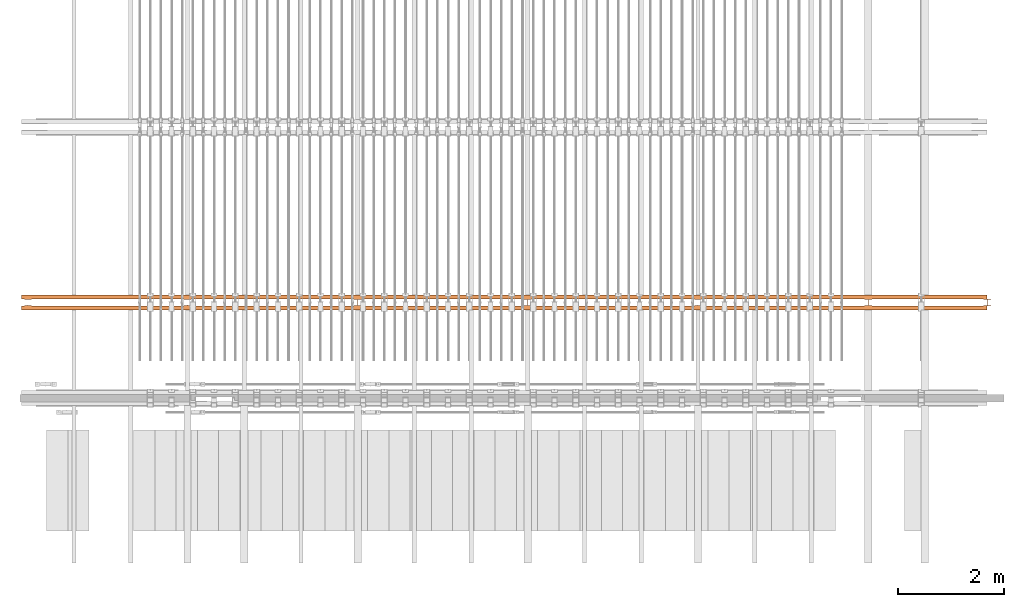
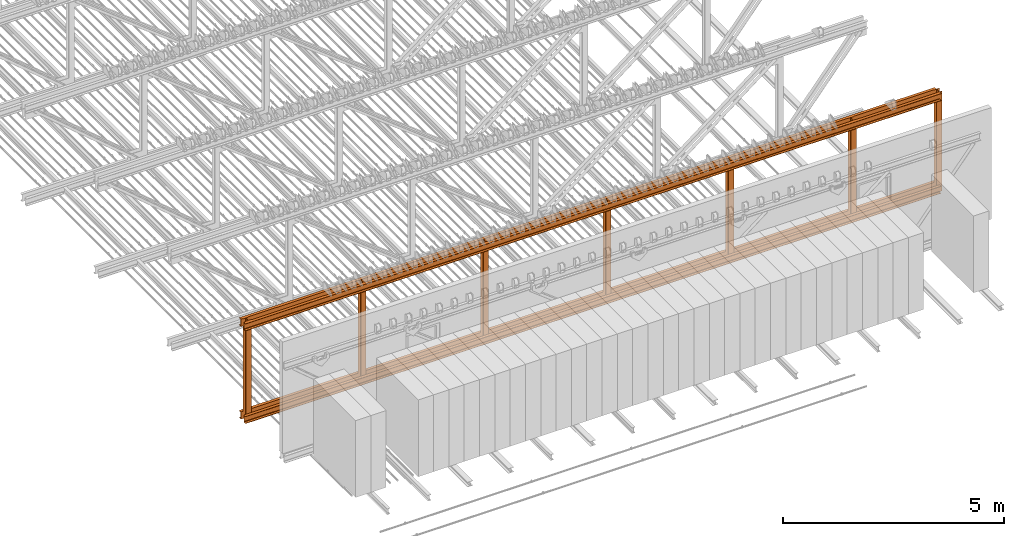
# One storey, part 6 of 8: 1 proxy.
"""IFC2X3 building model written with IfcOpenShell, lengths in millimetres."""

from ifc_helpers import new_model, entity, si_unit, converted_unit, direction, frame, frame_2d, origin, place, context, subcontext, project, spatial, polyline, circle_curve, parameter, trimmed, segment, composite_curve, outline, extrude, source, transform, mapped, material, type_object, type_shapes, element, save


model = new_model("IFC2X3")

# Units and contexts
model_context = context("Model", 3, precision=0.01, world=origin(), true_north=direction((6.123233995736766e-17, 1.0)))
body_context = subcontext(model_context, "Body", "Model", "MODEL_VIEW")
ifc_project = project(units=[si_unit("LENGTHUNIT", "METRE", prefix="MILLI"), si_unit("AREAUNIT", "SQUARE_METRE"), converted_unit("PLANEANGLEUNIT", "DEGREE", entity("IfcPlaneAngleMeasure", 0.017453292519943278), si_unit("PLANEANGLEUNIT", "RADIAN"), dimensions=[0, 0, 0, 0, 0, 0, 0])], contexts=[model_context])

# Site, building, storey
site_placement = place(None, origin())
site = spatial("IfcSite", under=ifc_project, at=site_placement, Name="Default", CompositionType="ELEMENT")
building_placement = place(site_placement, origin())
building = spatial("IfcBuilding", under=site, at=building_placement, CompositionType="ELEMENT")
storey_placement = place(building_placement, frame((0.0, 0.0, 30550.0)))
storey = spatial("IfcBuildingStorey", under=building, at=storey_placement, Name="Rollenzolder", CompositionType="ELEMENT", Elevation=30550.000000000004)

# Proxy
ifc_material = material(Name="Staal PBTA")
building_element_proxy_type = type_object("IfcBuildingElementProxyType", Name="ophanging:ophanging", PredefinedType="NOTDEFINED", material=ifc_material)
shared_shape = source(origin(), body_context, "Body", "SweptSolid", [
    extrude(outline(composite_curve([segment(polyline([(-70.0, -58.0), (-70.0, -66.50000000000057)]), True, "CONTINUOUS"), segment(polyline([(-70.0, -66.50000000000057), (70.0, -66.50000000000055)]), True, "CONTINUOUS"), segment(polyline([(70.0, -66.50000000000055), (70.0, -58.0)]), True, "CONTINUOUS"), segment(polyline([(70.0, -58.0), (14.749999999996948, -58.0)]), True, "CONTINUOUS"), segment(trimmed(circle_curve(frame_2d((14.749999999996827, -46.0), x_axis=(0.0, -1.0)), 12.0), [parameter(269.9999999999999)], [parameter(1.0177774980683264e-12)], True, "PARAMETER"), False, "CONTINUOUS"), segment(polyline([(2.749999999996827, -46.0), (2.749999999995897, 46.0)]), True, "CONTINUOUS"), segment(trimmed(circle_curve(frame_2d((14.749999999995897, 46.0), x_axis=(-1.0, 0.0)), 12.0), [parameter(269.9999999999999)], [parameter(359.9999999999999)], True, "PARAMETER"), False, "CONTINUOUS"), segment(polyline([(14.749999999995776, 58.0), (70.0, 58.0)]), True, "CONTINUOUS"), segment(polyline([(70.0, 58.0), (70.0, 66.4999999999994)]), True, "CONTINUOUS"), segment(polyline([(70.0, 66.4999999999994), (-70.0, 66.49999999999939)]), True, "CONTINUOUS"), segment(polyline([(-70.0, 66.49999999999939), (-70.0, 58.0)]), True, "CONTINUOUS"), segment(polyline([(-70.0, 58.0), (-14.750000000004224, 58.0)]), True, "CONTINUOUS"), segment(trimmed(circle_curve(frame_2d((-14.750000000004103, 46.0), x_axis=(0.0, 1.0)), 12.0), [parameter(269.9999999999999)], [parameter(359.99999999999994)], True, "PARAMETER"), False, "CONTINUOUS"), segment(polyline([(-2.750000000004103, 46.0), (-2.750000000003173, -46.0)]), True, "CONTINUOUS"), segment(trimmed(circle_curve(frame_2d((-14.750000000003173, -46.0), x_axis=(1.0, 0.0)), 12.0), [parameter(269.9999999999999)], [parameter(2.0355549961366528e-13)], True, "PARAMETER"), False, "CONTINUOUS"), segment(polyline([(-14.75000000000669, -58.0), (-70.0, -58.0)]), True, "CONTINUOUS")], self_intersect=False)), frame((18290.0, 0.0, -200.0), z_axis=(0.0, 0.0, -1.0), x_axis=(-1.0, 0.0, 0.0)), (0.0, 0.0, -1.0), 2760.0),
    extrude(outline(composite_curve([segment(polyline([(-70.0, -58.0), (-70.0, -66.50000000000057)]), True, "CONTINUOUS"), segment(polyline([(-70.0, -66.50000000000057), (70.0, -66.50000000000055)]), True, "CONTINUOUS"), segment(polyline([(70.0, -66.50000000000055), (70.0, -58.0)]), True, "CONTINUOUS"), segment(polyline([(70.0, -58.0), (14.749999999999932, -58.0)]), True, "CONTINUOUS"), segment(trimmed(circle_curve(frame_2d((14.749999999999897, -46.0), x_axis=(1.0, 0.0)), 12.0), [parameter(180.00000000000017)], [parameter(270.0000000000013)], True, "PARAMETER"), False, "CONTINUOUS"), segment(polyline([(2.7499999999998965, -46.0), (2.749999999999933, 46.0)]), True, "CONTINUOUS"), segment(trimmed(circle_curve(frame_2d((14.749999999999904, 46.0), x_axis=(1.0, 0.0)), 12.0), [parameter(89.99999999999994)], [parameter(179.9999999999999)], True, "PARAMETER"), False, "CONTINUOUS"), segment(polyline([(14.749999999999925, 58.0), (70.0, 58.0)]), True, "CONTINUOUS"), segment(polyline([(70.0, 58.0), (70.0, 66.4999999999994)]), True, "CONTINUOUS"), segment(polyline([(70.0, 66.4999999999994), (-70.0, 66.49999999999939)]), True, "CONTINUOUS"), segment(polyline([(-70.0, 66.49999999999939), (-70.0, 58.0)]), True, "CONTINUOUS"), segment(polyline([(-70.0, 58.0), (-14.750000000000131, 58.0)]), True, "CONTINUOUS"), segment(trimmed(circle_curve(frame_2d((-14.750000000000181, 46.0), x_axis=(1.0, 0.0)), 12.0), [parameter(359.99999999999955)], [parameter(89.99999999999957)], True, "PARAMETER"), False, "CONTINUOUS"), segment(polyline([(-2.7500000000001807, 46.0), (-2.7500000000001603, -46.0)]), True, "CONTINUOUS"), segment(trimmed(circle_curve(frame_2d((-14.750000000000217, -46.0), x_axis=(1.0, 0.0)), 12.0), [parameter(269.99999999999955)], [parameter(359.99999999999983)], True, "PARAMETER"), False, "CONTINUOUS"), segment(polyline([(-14.750000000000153, -58.0), (-70.0, -58.0)]), True, "CONTINUOUS")], self_intersect=False)), frame((250.0, 0.0, -200.0), z_axis=(0.0, 0.0, -1.0), x_axis=(-1.0, 0.0, 0.0)), (0.0, 0.0, -1.0), 2760.0000000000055),
    extrude(outline(composite_curve([segment(polyline([(-100.0, -41.17690021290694), (100.0, -41.17690021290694)]), True, "CONTINUOUS"), segment(polyline([(100.0, -41.17690021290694), (100.0, 33.82309978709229)]), True, "CONTINUOUS"), segment(polyline([(100.0, 33.82309978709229), (97.03916937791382, 33.82309978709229)]), True, "CONTINUOUS"), segment(trimmed(circle_curve(frame_2d((97.03916937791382, 27.82309978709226), x_axis=(0.0, 1.0)), 6.0), [parameter(3.053332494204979e-13)], [parameter(85.42607874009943)], True, "PARAMETER"), True, "CONTINUOUS"), segment(polyline([(91.05827770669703, 28.30157112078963), (87.02663439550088, -22.093970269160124)]), True, "CONTINUOUS"), segment(trimmed(circle_curve(frame_2d((75.5632586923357, -21.176900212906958), x_axis=(0.0, 1.0)), 11.5), [parameter(180.0000000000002)], [parameter(265.4260787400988)], True, "PARAMETER"), False, "CONTINUOUS"), segment(polyline([(75.5632586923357, -32.67690021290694), (-75.56325869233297, -32.67690021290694)]), True, "CONTINUOUS"), segment(trimmed(circle_curve(frame_2d((-75.56325869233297, -21.176900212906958), x_axis=(0.0, 1.0)), 11.5), [parameter(94.57392125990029)], [parameter(179.99999999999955)], True, "PARAMETER"), False, "CONTINUOUS"), segment(polyline([(-87.0266343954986, -22.093970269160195), (-91.0582777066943, 28.30157112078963)]), True, "CONTINUOUS"), segment(trimmed(circle_curve(frame_2d((-97.03916937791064, 27.82309978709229), x_axis=(0.0, 1.0)), 6.0), [parameter(274.5739212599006)], [parameter(0.0)], True, "PARAMETER"), True, "CONTINUOUS"), segment(polyline([(-97.03916937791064, 33.82309978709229), (-100.0, 33.82309978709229)]), True, "CONTINUOUS"), segment(polyline([(-100.0, 33.82309978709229), (-100.0, -41.17690021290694)]), True, "CONTINUOUS")], self_intersect=False)), frame((125.0, 107.67690021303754, 2460.0), z_axis=(1.0, 0.0, 0.0), x_axis=(0.0, 0.0, -1.0)), (0.0, 0.0, 1.0), 18165.0),
    extrude(outline(composite_curve([segment(polyline([(-100.0, -41.17690021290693), (100.0, -41.17690021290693)]), True, "CONTINUOUS"), segment(polyline([(100.0, -41.17690021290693), (100.0, 33.82309978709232)]), True, "CONTINUOUS"), segment(polyline([(100.0, 33.82309978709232), (97.03916937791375, 33.82309978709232)]), True, "CONTINUOUS"), segment(trimmed(circle_curve(frame_2d((97.03916937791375, 27.82309978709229), x_axis=(0.0, 1.0)), 6.0), [parameter(3.053332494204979e-13)], [parameter(85.42607874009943)], True, "PARAMETER"), True, "CONTINUOUS"), segment(polyline([(91.05827770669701, 28.30157112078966), (87.02663439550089, -22.09397026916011)]), True, "CONTINUOUS"), segment(trimmed(circle_curve(frame_2d((75.56325869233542, -21.17690021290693), x_axis=(0.0, 1.0)), 11.5), [parameter(180.0000000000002)], [parameter(265.4260787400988)], True, "PARAMETER"), False, "CONTINUOUS"), segment(polyline([(75.56325869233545, -32.67690021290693), (-75.5632586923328, -32.67690021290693)]), True, "CONTINUOUS"), segment(trimmed(circle_curve(frame_2d((-75.56325869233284, -21.17690021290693), x_axis=(0.0, 1.0)), 11.5), [parameter(94.57392125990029)], [parameter(179.99999999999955)], True, "PARAMETER"), False, "CONTINUOUS"), segment(polyline([(-87.02663439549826, -22.09397026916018), (-91.0582777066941, 28.30157112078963)]), True, "CONTINUOUS"), segment(trimmed(circle_curve(frame_2d((-97.03916937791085, 27.823099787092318), x_axis=(0.0, 1.0)), 6.0), [parameter(274.5739212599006)], [parameter(0.0)], True, "PARAMETER"), True, "CONTINUOUS"), segment(polyline([(-97.03916937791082, 33.82309978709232), (-100.0, 33.82309978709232)]), True, "CONTINUOUS"), segment(polyline([(-100.0, 33.82309978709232), (-100.0, -41.17690021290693)]), True, "CONTINUOUS")], self_intersect=False)), frame((125.0, 107.67690021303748, -100.0), z_axis=(1.0, 0.0, 0.0), x_axis=(0.0, 0.0, -1.0)), (0.0, 0.0, 1.0), 18165.0),
    extrude(outline(composite_curve([segment(polyline([(-41.17690021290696, -100.0), (33.82309978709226, -100.0)]), True, "CONTINUOUS"), segment(polyline([(33.82309978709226, -100.0), (33.82309978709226, -97.0391693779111)]), True, "CONTINUOUS"), segment(trimmed(circle_curve(frame_2d((27.82309978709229, -97.0391693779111), x_axis=(0.0, 1.0)), 6.0), [parameter(269.9999999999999)], [parameter(355.42607874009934)], True, "PARAMETER"), True, "CONTINUOUS"), segment(polyline([(28.301571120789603, -91.05827770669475), (-22.09397026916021, -87.02663439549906)]), True, "CONTINUOUS"), segment(trimmed(circle_curve(frame_2d((-21.176900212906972, -75.56325869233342), x_axis=(-0.9968152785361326, 0.07974522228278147)), 11.5), [parameter(4.573921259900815)], [parameter(90.00000000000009)], True, "PARAMETER"), False, "CONTINUOUS"), segment(polyline([(-32.67690021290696, -75.56325869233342), (-32.67690021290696, 75.56325869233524)]), True, "CONTINUOUS"), segment(trimmed(circle_curve(frame_2d((-21.176900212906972, 75.56325869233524), x_axis=(0.0, 1.0)), 11.5), [parameter(4.573921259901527)], [parameter(90.00000000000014)], True, "PARAMETER"), False, "CONTINUOUS"), segment(polyline([(-22.09397026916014, 87.02663439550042), (28.30157112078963, 91.05827770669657)]), True, "CONTINUOUS"), segment(trimmed(circle_curve(frame_2d((27.82309978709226, 97.03916937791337), x_axis=(0.9968152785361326, 0.07974522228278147)), 6.0), [parameter(269.9999999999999)], [parameter(355.42607874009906)], True, "PARAMETER"), True, "CONTINUOUS"), segment(polyline([(33.82309978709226, 97.03916937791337), (33.82309978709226, 100.0)]), True, "CONTINUOUS"), segment(polyline([(33.82309978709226, 100.0), (-41.17690021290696, 100.0)]), True, "CONTINUOUS"), segment(polyline([(-41.17690021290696, 100.0), (-41.17690021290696, -100.0)]), True, "CONTINUOUS")], self_intersect=False)), frame((125.0, -107.6769002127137, 2460.0), z_axis=(1.0, 0.0, 0.0), x_axis=(0.0, -1.0, 0.0)), (0.0, 0.0, 1.0), 18165.000000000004),
    extrude(outline(composite_curve([segment(polyline([(-41.17690021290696, -100.0), (33.82309978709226, -100.0)]), True, "CONTINUOUS"), segment(polyline([(33.82309978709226, -100.0), (33.82309978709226, -97.03916937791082)]), True, "CONTINUOUS"), segment(trimmed(circle_curve(frame_2d((27.82309978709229, -97.03916937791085), x_axis=(0.0, 1.0)), 6.0), [parameter(269.9999999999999)], [parameter(355.42607874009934)], True, "PARAMETER"), True, "CONTINUOUS"), segment(polyline([(28.301571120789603, -91.0582777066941), (-22.09397026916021, -87.02663439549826)]), True, "CONTINUOUS"), segment(trimmed(circle_curve(frame_2d((-21.176900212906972, -75.56325869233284), x_axis=(-0.9968152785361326, 0.07974522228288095)), 11.5), [parameter(4.573921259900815)], [parameter(90.00000000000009)], True, "PARAMETER"), False, "CONTINUOUS"), segment(polyline([(-32.67690021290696, -75.5632586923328), (-32.67690021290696, 75.56325869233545)]), True, "CONTINUOUS"), segment(trimmed(circle_curve(frame_2d((-21.176900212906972, 75.56325869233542), x_axis=(0.0, 1.0)), 11.5), [parameter(4.573921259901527)], [parameter(90.00000000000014)], True, "PARAMETER"), False, "CONTINUOUS"), segment(polyline([(-22.09397026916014, 87.02663439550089), (28.30157112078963, 91.05827770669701)]), True, "CONTINUOUS"), segment(trimmed(circle_curve(frame_2d((27.82309978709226, 97.03916937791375), x_axis=(0.9968152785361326, 0.07974522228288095)), 6.0), [parameter(269.9999999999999)], [parameter(355.42607874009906)], True, "PARAMETER"), True, "CONTINUOUS"), segment(polyline([(33.82309978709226, 97.03916937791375), (33.82309978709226, 100.0)]), True, "CONTINUOUS"), segment(polyline([(33.82309978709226, 100.0), (-41.17690021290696, 100.0)]), True, "CONTINUOUS"), segment(polyline([(-41.17690021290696, 100.0), (-41.17690021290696, -100.0)]), True, "CONTINUOUS")], self_intersect=False)), frame((125.0, -107.6769002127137, -100.0), z_axis=(1.0, 0.0, 0.0), x_axis=(0.0, -1.0, 0.0)), (0.0, 0.0, 1.0), 18165.000000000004),
    extrude(outline(composite_curve([segment(polyline([(-70.0, -58.0), (-70.0, -66.50000000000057)]), True, "CONTINUOUS"), segment(polyline([(-70.0, -66.50000000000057), (70.0, -66.50000000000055)]), True, "CONTINUOUS"), segment(polyline([(70.0, -66.50000000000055), (70.0, -58.0)]), True, "CONTINUOUS"), segment(polyline([(70.0, -58.0), (14.750000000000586, -58.0)]), True, "CONTINUOUS"), segment(trimmed(circle_curve(frame_2d((14.750000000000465, -46.0), x_axis=(0.0, -1.0)), 12.0), [parameter(269.9999999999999)], [parameter(1.0177774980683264e-12)], True, "PARAMETER"), False, "CONTINUOUS"), segment(polyline([(2.749999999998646, -46.0), (2.749999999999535, 46.0)]), True, "CONTINUOUS"), segment(trimmed(circle_curve(frame_2d((14.749999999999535, 46.0), x_axis=(-1.0, 0.0)), 12.0), [parameter(269.9999999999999)], [parameter(359.9999999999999)], True, "PARAMETER"), False, "CONTINUOUS"), segment(polyline([(14.749999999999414, 58.0), (70.0, 58.0)]), True, "CONTINUOUS"), segment(polyline([(70.0, 58.0), (70.0, 66.4999999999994)]), True, "CONTINUOUS"), segment(polyline([(70.0, 66.4999999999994), (-70.0, 66.49999999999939)]), True, "CONTINUOUS"), segment(polyline([(-70.0, 66.49999999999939), (-70.0, 58.0)]), True, "CONTINUOUS"), segment(polyline([(-70.0, 58.0), (-14.750000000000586, 58.0)]), True, "CONTINUOUS"), segment(trimmed(circle_curve(frame_2d((-14.750000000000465, 46.0), x_axis=(0.0, 1.0)), 12.0), [parameter(269.9999999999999)], [parameter(359.99999999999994)], True, "PARAMETER"), False, "CONTINUOUS"), segment(polyline([(-2.750000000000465, 46.0), (-2.749999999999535, -46.0)]), True, "CONTINUOUS"), segment(trimmed(circle_curve(frame_2d((-14.749999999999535, -46.0), x_axis=(1.0, 0.0)), 12.0), [parameter(269.9999999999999)], [parameter(2.0355549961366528e-13)], True, "PARAMETER"), False, "CONTINUOUS"), segment(polyline([(-14.750000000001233, -58.0), (-70.0, -58.0)]), True, "CONTINUOUS")], self_intersect=False)), frame((16050.0, 0.0, -200.0), z_axis=(0.0, 0.0, -1.0), x_axis=(-1.0, 0.0, 0.0)), (0.0, 0.0, -1.0), 2760.0),
    extrude(outline(composite_curve([segment(polyline([(-70.0, -58.0), (-70.0, -66.50000000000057)]), True, "CONTINUOUS"), segment(polyline([(-70.0, -66.50000000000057), (70.0, -66.50000000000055)]), True, "CONTINUOUS"), segment(polyline([(70.0, -66.50000000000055), (70.0, -58.0)]), True, "CONTINUOUS"), segment(polyline([(70.0, -58.0), (14.750000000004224, -58.0)]), True, "CONTINUOUS"), segment(trimmed(circle_curve(frame_2d((14.750000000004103, -46.0), x_axis=(0.0, -1.0)), 12.0), [parameter(269.9999999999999)], [parameter(1.0177774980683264e-12)], True, "PARAMETER"), False, "CONTINUOUS"), segment(polyline([(2.750000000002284, -46.0), (2.750000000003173, 46.0)]), True, "CONTINUOUS"), segment(trimmed(circle_curve(frame_2d((14.750000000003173, 46.0), x_axis=(-1.0, 0.0)), 12.0), [parameter(269.9999999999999)], [parameter(359.9999999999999)], True, "PARAMETER"), False, "CONTINUOUS"), segment(polyline([(14.750000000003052, 58.0), (70.0, 58.0)]), True, "CONTINUOUS"), segment(polyline([(70.0, 58.0), (70.0, 66.4999999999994)]), True, "CONTINUOUS"), segment(polyline([(70.0, 66.4999999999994), (-70.0, 66.49999999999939)]), True, "CONTINUOUS"), segment(polyline([(-70.0, 66.49999999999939), (-70.0, 58.0)]), True, "CONTINUOUS"), segment(polyline([(-70.0, 58.0), (-14.749999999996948, 58.0)]), True, "CONTINUOUS"), segment(trimmed(circle_curve(frame_2d((-14.749999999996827, 46.0), x_axis=(0.0, 1.0)), 12.0), [parameter(269.9999999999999)], [parameter(359.99999999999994)], True, "PARAMETER"), False, "CONTINUOUS"), segment(polyline([(-2.749999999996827, 46.0), (-2.749999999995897, -46.0)]), True, "CONTINUOUS"), segment(trimmed(circle_curve(frame_2d((-14.749999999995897, -46.0), x_axis=(1.0, 0.0)), 12.0), [parameter(269.9999999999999)], [parameter(2.0355549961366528e-13)], True, "PARAMETER"), False, "CONTINUOUS"), segment(polyline([(-14.749999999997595, -58.0), (-70.0, -58.0)]), True, "CONTINUOUS")], self_intersect=False)), frame((12850.0, 0.0, -200.0), z_axis=(0.0, 0.0, -1.0), x_axis=(-1.0, 0.0, 0.0)), (0.0, 0.0, -1.0), 2760.0),
    extrude(outline(composite_curve([segment(polyline([(-70.0, -58.0), (-70.0, -66.50000000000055)]), True, "CONTINUOUS"), segment(polyline([(-70.0, -66.50000000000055), (70.0, -66.50000000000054)]), True, "CONTINUOUS"), segment(polyline([(70.0, -66.50000000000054), (70.0, -58.0)]), True, "CONTINUOUS"), segment(polyline([(70.0, -58.0), (14.749999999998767, -58.0)]), True, "CONTINUOUS"), segment(trimmed(circle_curve(frame_2d((14.750000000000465, -46.0), x_axis=(0.0, -1.0)), 12.0), [parameter(269.9999999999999)], [parameter(1.0177774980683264e-12)], True, "PARAMETER"), False, "CONTINUOUS"), segment(polyline([(2.749999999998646, -46.0), (2.749999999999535, 46.0)]), True, "CONTINUOUS"), segment(trimmed(circle_curve(frame_2d((14.749999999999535, 46.0), x_axis=(-1.0, 0.0)), 12.0), [parameter(269.9999999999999)], [parameter(359.9999999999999)], True, "PARAMETER"), False, "CONTINUOUS"), segment(polyline([(14.749999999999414, 58.0), (70.0, 58.0)]), True, "CONTINUOUS"), segment(polyline([(70.0, 58.0), (70.0, 66.4999999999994)]), True, "CONTINUOUS"), segment(polyline([(70.0, 66.4999999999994), (-70.0, 66.49999999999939)]), True, "CONTINUOUS"), segment(polyline([(-70.0, 66.49999999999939), (-70.0, 58.0)]), True, "CONTINUOUS"), segment(polyline([(-70.0, 58.0), (-14.750000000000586, 58.0)]), True, "CONTINUOUS"), segment(trimmed(circle_curve(frame_2d((-14.750000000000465, 46.0), x_axis=(0.0, 1.0)), 12.0), [parameter(269.9999999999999)], [parameter(359.99999999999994)], True, "PARAMETER"), False, "CONTINUOUS"), segment(polyline([(-2.750000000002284, 46.0), (-2.750000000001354, -46.0)]), True, "CONTINUOUS"), segment(trimmed(circle_curve(frame_2d((-14.749999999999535, -46.0), x_axis=(1.0, 0.0)), 12.0), [parameter(269.9999999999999)], [parameter(2.0355549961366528e-13)], True, "PARAMETER"), False, "CONTINUOUS"), segment(polyline([(-14.750000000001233, -58.0), (-70.0, -58.0)]), True, "CONTINUOUS")], self_intersect=False)), frame((9650.0, 0.0, -200.0), z_axis=(0.0, 0.0, -1.0), x_axis=(-1.0, 0.0, 0.0)), (0.0, 0.0, -1.0), 2759.9999999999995),
    extrude(outline(composite_curve([segment(polyline([(-70.0, -58.0), (-70.0, -66.50000000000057)]), True, "CONTINUOUS"), segment(polyline([(-70.0, -66.50000000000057), (70.0, -66.50000000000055)]), True, "CONTINUOUS"), segment(polyline([(70.0, -66.50000000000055), (70.0, -58.0)]), True, "CONTINUOUS"), segment(polyline([(70.0, -58.0), (14.750000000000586, -58.0)]), True, "CONTINUOUS"), segment(trimmed(circle_curve(frame_2d((14.750000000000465, -46.0), x_axis=(0.0, -1.0)), 12.0), [parameter(269.9999999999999)], [parameter(1.0177774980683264e-12)], True, "PARAMETER"), False, "CONTINUOUS"), segment(polyline([(2.7500000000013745, -46.0), (2.750000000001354, 46.0)]), True, "CONTINUOUS"), segment(trimmed(circle_curve(frame_2d((14.749999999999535, 46.0), x_axis=(-1.0, 0.0)), 12.0), [parameter(269.9999999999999)], [parameter(359.9999999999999)], True, "PARAMETER"), False, "CONTINUOUS"), segment(polyline([(14.750000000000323, 58.0), (70.0, 58.0)]), True, "CONTINUOUS"), segment(polyline([(70.0, 58.0), (70.0, 66.49999999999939)]), True, "CONTINUOUS"), segment(polyline([(70.0, 66.49999999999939), (-70.0, 66.49999999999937)]), True, "CONTINUOUS"), segment(polyline([(-70.0, 66.49999999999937), (-70.0, 58.0)]), True, "CONTINUOUS"), segment(polyline([(-70.0, 58.0), (-14.749999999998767, 58.0)]), True, "CONTINUOUS"), segment(trimmed(circle_curve(frame_2d((-14.750000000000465, 46.0), x_axis=(0.0, 1.0)), 12.0), [parameter(269.9999999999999)], [parameter(359.99999999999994)], True, "PARAMETER"), False, "CONTINUOUS"), segment(polyline([(-2.7499999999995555, 46.0), (-2.749999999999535, -46.0)]), True, "CONTINUOUS"), segment(trimmed(circle_curve(frame_2d((-14.749999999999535, -46.0), x_axis=(1.0, 0.0)), 12.0), [parameter(269.9999999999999)], [parameter(2.0355549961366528e-13)], True, "PARAMETER"), False, "CONTINUOUS"), segment(polyline([(-14.749999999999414, -58.0), (-70.0, -58.0)]), True, "CONTINUOUS")], self_intersect=False)), frame((6450.0, 0.0, -200.0), z_axis=(0.0, 0.0, -1.0), x_axis=(-1.0, 0.0, 0.0)), (0.0, 0.0, -1.0), 2760.0),
    extrude(outline(composite_curve([segment(polyline([(-70.0, -58.0), (-70.0, -66.50000000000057)]), True, "CONTINUOUS"), segment(polyline([(-70.0, -66.50000000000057), (70.0, -66.50000000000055)]), True, "CONTINUOUS"), segment(polyline([(70.0, -66.50000000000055), (70.0, -58.0)]), True, "CONTINUOUS"), segment(polyline([(70.0, -58.0), (14.749999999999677, -58.0)]), True, "CONTINUOUS"), segment(trimmed(circle_curve(frame_2d((14.750000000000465, -46.0), x_axis=(1.0, 0.0)), 12.0), [parameter(180.00000000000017)], [parameter(270.0000000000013)], True, "PARAMETER"), False, "CONTINUOUS"), segment(polyline([(2.75000000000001, -46.0), (2.74999999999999, 46.0)]), True, "CONTINUOUS"), segment(trimmed(circle_curve(frame_2d((14.750000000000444, 46.0), x_axis=(1.0, 0.0)), 12.0), [parameter(89.99999999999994)], [parameter(179.9999999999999)], True, "PARAMETER"), False, "CONTINUOUS"), segment(polyline([(14.749999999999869, 58.0), (70.0, 58.0)]), True, "CONTINUOUS"), segment(polyline([(70.0, 58.0), (70.0, 66.4999999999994)]), True, "CONTINUOUS"), segment(polyline([(70.0, 66.4999999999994), (-70.0, 66.49999999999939)]), True, "CONTINUOUS"), segment(polyline([(-70.0, 66.49999999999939), (-70.0, 58.0)]), True, "CONTINUOUS"), segment(polyline([(-70.0, 58.0), (-14.750000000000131, 58.0)]), True, "CONTINUOUS"), segment(trimmed(circle_curve(frame_2d((-14.75000000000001, 46.0), x_axis=(1.0, 0.0)), 12.0), [parameter(359.99999999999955)], [parameter(89.99999999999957)], True, "PARAMETER"), False, "CONTINUOUS"), segment(polyline([(-2.75000000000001, 46.0), (-2.74999999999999, -46.0)]), True, "CONTINUOUS"), segment(trimmed(circle_curve(frame_2d((-14.74999999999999, -46.0), x_axis=(1.0, 0.0)), 12.0), [parameter(269.99999999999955)], [parameter(359.99999999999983)], True, "PARAMETER"), False, "CONTINUOUS"), segment(polyline([(-14.749999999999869, -58.0), (-70.0, -58.0)]), True, "CONTINUOUS")], self_intersect=False)), frame((3250.0, 0.0, -200.0), z_axis=(0.0, 0.0, -1.0), x_axis=(-1.0, 0.0, 0.0)), (0.0, 0.0, -1.0), 2760.0000000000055),
])
type_shapes(building_element_proxy_type, [shared_shape])
proxy_placement = place(storey_placement, frame((6486.744931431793, 14631.167906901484, -30.0)))
element("IfcBuildingElementProxy", 1, at=proxy_placement, inside=storey, type_object=building_element_proxy_type, material=ifc_material, Name="ophanging:ophanging", ObjectType="ophanging:ophanging", context=body_context, shape_type="MappedRepresentation", body=[
    mapped(shared_shape, transform((0.0, 0.0, 0.0), scale=1.0)),
])

save(model, "model.ifc")
